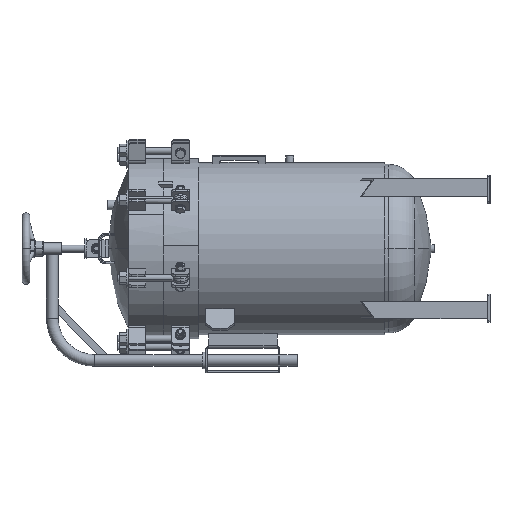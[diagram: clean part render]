
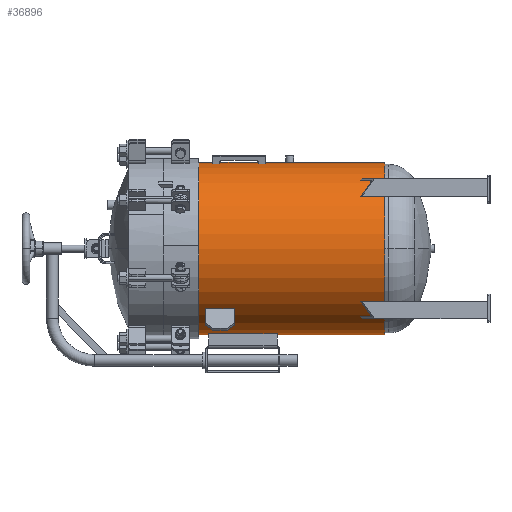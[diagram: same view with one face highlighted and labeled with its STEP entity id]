
A CAD part, left-side view. The second image highlights one B-rep face of the part: STEP entity #36896.
In plain terms, the highlighted cylindrical face has radius 311.15 mm (diameter 622.3 mm), a partial arc.
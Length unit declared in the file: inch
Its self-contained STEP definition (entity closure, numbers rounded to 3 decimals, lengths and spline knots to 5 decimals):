
#741 = ORIENTED_EDGE ( 'NONE', *, *, #10996, .T. ) ;
#875 = DIRECTION ( 'NONE',  ( 0., 0., -1. ) ) ;
#1167 = CYLINDRICAL_SURFACE ( 'NONE', #48922, 12.25 ) ;
#2076 = AXIS2_PLACEMENT_3D ( 'NONE', #27999, #5760, #23853 ) ;
#2083 = ORIENTED_EDGE ( 'NONE', *, *, #31136, .F. ) ;
#2457 = VERTEX_POINT ( 'NONE', #11620 ) ;
#2492 = DIRECTION ( 'NONE',  ( 0., 1., 0. ) ) ;
#4293 = DIRECTION ( 'NONE',  ( 0., 1., 0. ) ) ;
#4545 = CARTESIAN_POINT ( 'NONE',  ( -2.44066, -14., 12.0044 ) ) ;
#4990 = VECTOR ( 'NONE', #49853, 39.37008 ) ;
#5118 = LINE ( 'NONE', #40671, #4990 ) ;
#5344 = FACE_BOUND ( 'NONE', #9817, .T. ) ;
#5760 = DIRECTION ( 'NONE',  ( 0., 1., 0. ) ) ;
#6409 = EDGE_LOOP ( 'NONE', ( #10875, #11847, #21668, #30685 ) ) ;
#6490 = CARTESIAN_POINT ( 'NONE',  ( -2.37926, -14., 12.01672 ) ) ;
#7869 = VECTOR ( 'NONE', #10551, 39.37008 ) ;
#8153 = CARTESIAN_POINT ( 'NONE',  ( -2.44066, -13., 12.0044 ) ) ;
#8764 = AXIS2_PLACEMENT_3D ( 'NONE', #19415, #33030, #10517 ) ;
#9817 = EDGE_LOOP ( 'NONE', ( #22343, #52220, #37097, #741 ) ) ;
#10517 = DIRECTION ( 'NONE',  ( -1., 0., 0. ) ) ;
#10551 = DIRECTION ( 'NONE',  ( 0., -1., 0. ) ) ;
#10768 = VECTOR ( 'NONE', #30974, 39.37008 ) ;
#10875 = ORIENTED_EDGE ( 'NONE', *, *, #22499, .F. ) ;
#10996 = EDGE_CURVE ( 'NONE', #15606, #14240, #41569, .T. ) ;
#11410 = VERTEX_POINT ( 'NONE', #42571 ) ;
#11620 = CARTESIAN_POINT ( 'NONE',  ( -2.37926, -14., 12.01672 ) ) ;
#11847 = ORIENTED_EDGE ( 'NONE', *, *, #22218, .T. ) ;
#12685 = EDGE_LOOP ( 'NONE', ( #2083, #55991, #25342, #19409 ) ) ;
#13540 = EDGE_CURVE ( 'NONE', #55829, #54492, #35023, .T. ) ;
#13832 = DIRECTION ( 'NONE',  ( 0., 1., 0. ) ) ;
#14240 = VERTEX_POINT ( 'NONE', #16225 ) ;
#15311 = CARTESIAN_POINT ( 'NONE',  ( 0., -6.5625, 0. ) ) ;
#15606 = VERTEX_POINT ( 'NONE', #58028 ) ;
#16225 = CARTESIAN_POINT ( 'NONE',  ( -2.44066, -7.5625, 12.0044 ) ) ;
#16714 = VECTOR ( 'NONE', #13832, 39.37008 ) ;
#17354 = CARTESIAN_POINT ( 'NONE',  ( -2.44066, -2.15625, 12.0044 ) ) ;
#17934 = EDGE_CURVE ( 'NONE', #28772, #51821, #39903, .T. ) ;
#18286 = EDGE_CURVE ( 'NONE', #57218, #23007, #53180, .T. ) ;
#18465 = DIRECTION ( 'NONE',  ( 0., -1., 0. ) ) ;
#18574 = CARTESIAN_POINT ( 'NONE',  ( 0., -2.15625, 12.25 ) ) ;
#19409 = ORIENTED_EDGE ( 'NONE', *, *, #13540, .T. ) ;
#19415 = CARTESIAN_POINT ( 'NONE',  ( 0., -4.5625, 0. ) ) ;
#19446 = LINE ( 'NONE', #37491, #16714 ) ;
#20494 = DIRECTION ( 'NONE',  ( 0., 0., -1. ) ) ;
#20593 = DIRECTION ( 'NONE',  ( 1., 0., 0. ) ) ;
#21349 = CARTESIAN_POINT ( 'NONE',  ( -2.37926, -6.5625, 12.01672 ) ) ;
#21668 = ORIENTED_EDGE ( 'NONE', *, *, #24161, .T. ) ;
#21883 = EDGE_CURVE ( 'NONE', #15606, #51821, #53769, .T. ) ;
#22099 = CARTESIAN_POINT ( 'NONE',  ( -2.37926, -14., 12.01672 ) ) ;
#22218 = EDGE_CURVE ( 'NONE', #2457, #57647, #46756, .T. ) ;
#22343 = ORIENTED_EDGE ( 'NONE', *, *, #52388, .T. ) ;
#22499 = EDGE_CURVE ( 'NONE', #2457, #23007, #47671, .T. ) ;
#23007 = VERTEX_POINT ( 'NONE', #47017 ) ;
#23437 = CARTESIAN_POINT ( 'NONE',  ( 0., -2.15625, 0. ) ) ;
#23684 = CARTESIAN_POINT ( 'NONE',  ( -2.44066, -6.5625, 12.0044 ) ) ;
#23853 = DIRECTION ( 'NONE',  ( 0., 0., 1. ) ) ;
#24161 = EDGE_CURVE ( 'NONE', #57647, #57218, #44303, .T. ) ;
#25342 = ORIENTED_EDGE ( 'NONE', *, *, #46755, .T. ) ;
#27999 = CARTESIAN_POINT ( 'NONE',  ( 0., -13., 0. ) ) ;
#28772 = VERTEX_POINT ( 'NONE', #23684 ) ;
#30286 = AXIS2_PLACEMENT_3D ( 'NONE', #51959, #2492, #20593 ) ;
#30685 = ORIENTED_EDGE ( 'NONE', *, *, #18286, .T. ) ;
#30974 = DIRECTION ( 'NONE',  ( 0., 1., 0. ) ) ;
#31136 = EDGE_CURVE ( 'NONE', #11410, #54492, #42239, .T. ) ;
#33030 = DIRECTION ( 'NONE',  ( 0., 1., 0. ) ) ;
#33411 = CARTESIAN_POINT ( 'NONE',  ( 0., -30.96875, 12.25 ) ) ;
#34405 = DIRECTION ( 'NONE',  ( 0., -1., 0. ) ) ;
#35023 = CIRCLE ( 'NONE', #30286, 12.25 ) ;
#36819 = AXIS2_PLACEMENT_3D ( 'NONE', #50436, #18465, #46292 ) ;
#36896 = ADVANCED_FACE ( 'NONE', ( #54822, #46820, #5344 ), #1167, .T. ) ;
#37097 = ORIENTED_EDGE ( 'NONE', *, *, #21883, .F. ) ;
#37341 = VECTOR ( 'NONE', #38177, 39.37008 ) ;
#37491 = CARTESIAN_POINT ( 'NONE',  ( -2.44066, -2.15625, 12.0044 ) ) ;
#37987 = AXIS2_PLACEMENT_3D ( 'NONE', #15311, #51437, #56470 ) ;
#38177 = DIRECTION ( 'NONE',  ( 0., 1., 0. ) ) ;
#39903 = CIRCLE ( 'NONE', #37987, 12.25 ) ;
#40156 = AXIS2_PLACEMENT_3D ( 'NONE', #56909, #34405, #20494 ) ;
#40671 = CARTESIAN_POINT ( 'NONE',  ( 0., -2.15625, -12.25 ) ) ;
#41483 = DIRECTION ( 'NONE',  ( 0., -1., 0. ) ) ;
#41569 = CIRCLE ( 'NONE', #36819, 12.25 ) ;
#42239 = LINE ( 'NONE', #18574, #7869 ) ;
#42571 = CARTESIAN_POINT ( 'NONE',  ( 0., -4.5625, 12.25 ) ) ;
#43771 = CIRCLE ( 'NONE', #8764, 12.25 ) ;
#44303 = LINE ( 'NONE', #17354, #50679 ) ;
#46292 = DIRECTION ( 'NONE',  ( 0., 0., -1. ) ) ;
#46635 = EDGE_CURVE ( 'NONE', #57121, #11410, #43771, .T. ) ;
#46755 = EDGE_CURVE ( 'NONE', #57121, #55829, #5118, .T. ) ;
#46756 = CIRCLE ( 'NONE', #40156, 12.25 ) ;
#46820 = FACE_BOUND ( 'NONE', #6409, .T. ) ;
#47017 = CARTESIAN_POINT ( 'NONE',  ( -2.37926, -13., 12.01672 ) ) ;
#47671 = LINE ( 'NONE', #6490, #37341 ) ;
#48922 = AXIS2_PLACEMENT_3D ( 'NONE', #23437, #41483, #875 ) ;
#49853 = DIRECTION ( 'NONE',  ( 0., -1., 0. ) ) ;
#50436 = CARTESIAN_POINT ( 'NONE',  ( 0., -7.5625, 0. ) ) ;
#50679 = VECTOR ( 'NONE', #4293, 39.37008 ) ;
#51437 = DIRECTION ( 'NONE',  ( 0., 1., 0. ) ) ;
#51821 = VERTEX_POINT ( 'NONE', #21349 ) ;
#51959 = CARTESIAN_POINT ( 'NONE',  ( 0., -30.96875, 0. ) ) ;
#52220 = ORIENTED_EDGE ( 'NONE', *, *, #17934, .T. ) ;
#52388 = EDGE_CURVE ( 'NONE', #14240, #28772, #19446, .T. ) ;
#53180 = CIRCLE ( 'NONE', #2076, 12.25 ) ;
#53769 = LINE ( 'NONE', #22099, #10768 ) ;
#54492 = VERTEX_POINT ( 'NONE', #33411 ) ;
#54700 = CARTESIAN_POINT ( 'NONE',  ( 0., -30.96875, -12.25 ) ) ;
#54822 = FACE_OUTER_BOUND ( 'NONE', #12685, .T. ) ;
#55829 = VERTEX_POINT ( 'NONE', #54700 ) ;
#55991 = ORIENTED_EDGE ( 'NONE', *, *, #46635, .F. ) ;
#56470 = DIRECTION ( 'NONE',  ( 0., 0., 1. ) ) ;
#56909 = CARTESIAN_POINT ( 'NONE',  ( 0., -14., 0. ) ) ;
#57041 = CARTESIAN_POINT ( 'NONE',  ( 0., -4.5625, -12.25 ) ) ;
#57121 = VERTEX_POINT ( 'NONE', #57041 ) ;
#57218 = VERTEX_POINT ( 'NONE', #8153 ) ;
#57647 = VERTEX_POINT ( 'NONE', #4545 ) ;
#58028 = CARTESIAN_POINT ( 'NONE',  ( -2.37926, -7.5625, 12.01672 ) ) ;
